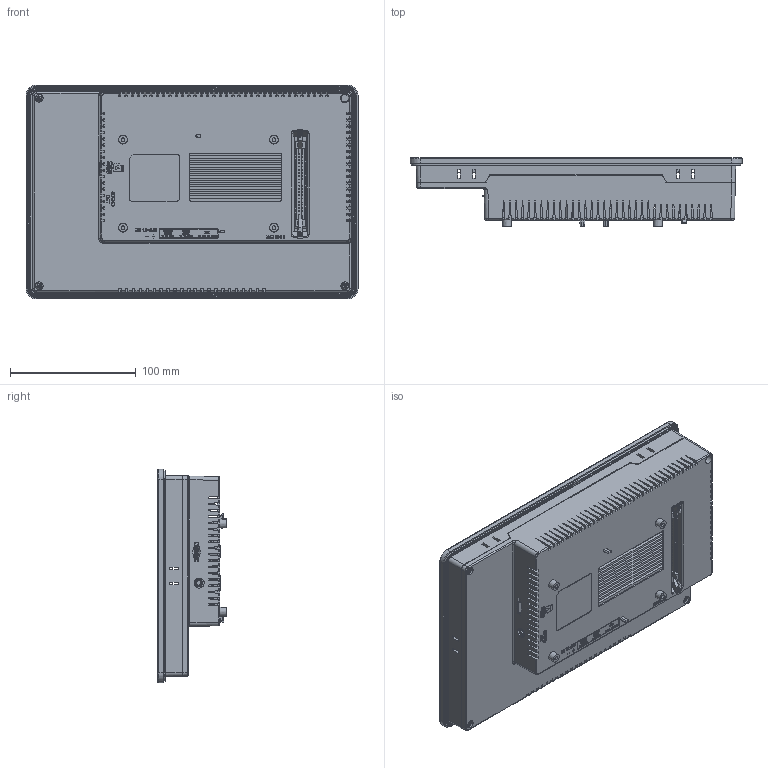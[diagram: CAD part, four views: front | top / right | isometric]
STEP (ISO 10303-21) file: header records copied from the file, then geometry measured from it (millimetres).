
FILE_DESCRIPTION (( 'STEP AP214' ), '1' );
FILE_NAME ('CPi-A101WR_rev1_蝶變瞪辨.STEP', '2023-05-26T10:25:57', ( '' ), ( '' ), 'SwSTEP 2.0', 'SolidWorks 2020', '' );
FILE_SCHEMA (( 'AUTOMOTIVE_DESIGN' ));
Length unit declared in the file: millimetre
Products named in the file (1): CPi-A101WR_rev1_蝶變瞪辨
Bounding box: 264 x 54.49 x 170 mm (x, y, z)
Surface area: 225941.6 mm2 (no closed solid volume)
Topology: 0 solids, 140 shells, 1689 faces, 7579 edges, 5808 vertices
Faces by surface type: plane 1264, cylinder 250, bspline 139, cone 17, torus 16, sphere 3
Full cylindrical faces by diameter (mm): 0.6 x3, 0.672 x1, 0.868 x1, 1.922 x1, 2 x3, 3 x4, 3.6 x1, 6 x1, 8 x1
Entity records: 106763 total; most frequent: CARTESIAN_POINT 32463, ORIENTED_EDGE 10753, DIRECTION 9522, EDGE_CURVE 7521, VERTEX_POINT 5787, LINE 5712, VECTOR 5712, EDGE_LOOP 1931
